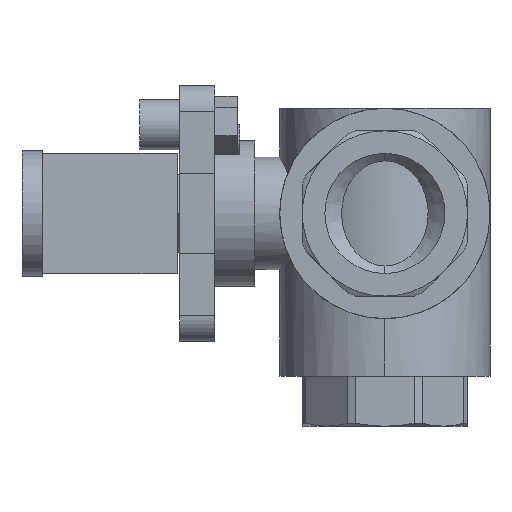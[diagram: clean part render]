
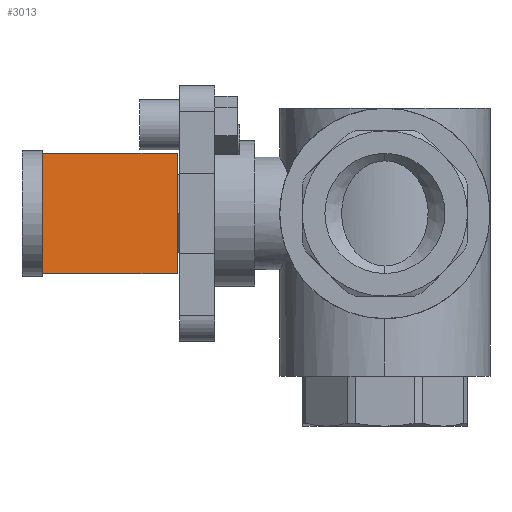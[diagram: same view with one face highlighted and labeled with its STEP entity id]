
A CAD part, left-side view. The second image highlights one B-rep face of the part: STEP entity #3013.
In plain terms, the highlighted planar face has unit normal (-0.707, -0.707, 0).
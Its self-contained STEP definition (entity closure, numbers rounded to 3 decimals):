
#317 = EDGE_CURVE ( 'NONE', #6605, #4152, #2154, .T. ) ;
#438 = DIRECTION ( 'NONE',  ( 0.707, -0.707, 0. ) ) ;
#490 = EDGE_CURVE ( 'NONE', #4152, #4526, #3582, .T. ) ;
#642 = PLANE ( 'NONE',  #1034 ) ;
#726 = DIRECTION ( 'NONE',  ( 0., 0., -1. ) ) ;
#821 = CARTESIAN_POINT ( 'NONE',  ( -25.5, 41.5, -12. ) ) ;
#1034 = AXIS2_PLACEMENT_3D ( 'NONE', #4445, #1365, #4954 ) ;
#1338 = CARTESIAN_POINT ( 'NONE',  ( -25.5, 41.5, 12. ) ) ;
#1365 = DIRECTION ( 'NONE',  ( 0.707, 0.707, 0. ) ) ;
#1529 = DIRECTION ( 'NONE',  ( 0.707, -0.707, 0. ) ) ;
#1551 = EDGE_LOOP ( 'NONE', ( #4006, #4039, #2702, #6096 ) ) ;
#1657 = FACE_OUTER_BOUND ( 'NONE', #1551, .T. ) ;
#1870 = EDGE_CURVE ( 'NONE', #6605, #3521, #4890, .T. ) ;
#2154 = LINE ( 'NONE', #2787, #4413 ) ;
#2310 = VECTOR ( 'NONE', #3835, 1000. ) ;
#2471 = LINE ( 'NONE', #4333, #2310 ) ;
#2702 = ORIENTED_EDGE ( 'NONE', *, *, #1870, .F. ) ;
#2787 = CARTESIAN_POINT ( 'NONE',  ( -53., 69., 12. ) ) ;
#3013 = ADVANCED_FACE ( 'NONE', ( #1657 ), #642, .F. ) ;
#3437 = VECTOR ( 'NONE', #1529, 1000. ) ;
#3438 = EDGE_CURVE ( 'NONE', #3521, #4526, #2471, .T. ) ;
#3517 = CARTESIAN_POINT ( 'NONE',  ( -53., 69., 12. ) ) ;
#3521 = VERTEX_POINT ( 'NONE', #1338 ) ;
#3582 = LINE ( 'NONE', #4986, #3437 ) ;
#3835 = DIRECTION ( 'NONE',  ( 0., 0., -1. ) ) ;
#4006 = ORIENTED_EDGE ( 'NONE', *, *, #490, .T. ) ;
#4015 = CARTESIAN_POINT ( 'NONE',  ( -53., 69., 12. ) ) ;
#4039 = ORIENTED_EDGE ( 'NONE', *, *, #3438, .F. ) ;
#4152 = VERTEX_POINT ( 'NONE', #6174 ) ;
#4333 = CARTESIAN_POINT ( 'NONE',  ( -25.5, 41.5, 12. ) ) ;
#4413 = VECTOR ( 'NONE', #726, 1000. ) ;
#4445 = CARTESIAN_POINT ( 'NONE',  ( -53., 69., 12. ) ) ;
#4526 = VERTEX_POINT ( 'NONE', #821 ) ;
#4890 = LINE ( 'NONE', #3517, #6580 ) ;
#4954 = DIRECTION ( 'NONE',  ( -0.707, 0.707, 0. ) ) ;
#4986 = CARTESIAN_POINT ( 'NONE',  ( -53., 69., -12. ) ) ;
#6096 = ORIENTED_EDGE ( 'NONE', *, *, #317, .T. ) ;
#6174 = CARTESIAN_POINT ( 'NONE',  ( -53., 69., -12. ) ) ;
#6580 = VECTOR ( 'NONE', #438, 1000. ) ;
#6605 = VERTEX_POINT ( 'NONE', #4015 ) ;
